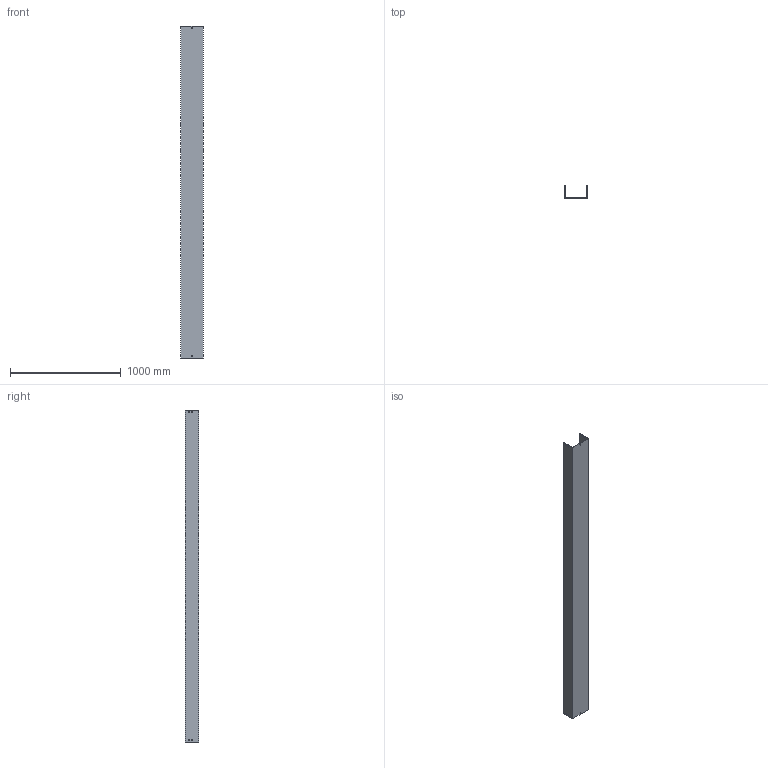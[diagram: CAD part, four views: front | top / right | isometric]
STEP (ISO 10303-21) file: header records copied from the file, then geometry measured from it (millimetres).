
FILE_DESCRIPTION (( 'STEP AP214' ), '1' );
FILE_NAME ('03B3J200.step', '2025-02-21T10:09:03', ( '' ), ( '' ), 'SwSTEP 2.0', 'SolidWorks 2023', '' );
FILE_SCHEMA (( 'AUTOMOTIVE_DESIGN' ));
Length unit declared in the file: millimetre
Products named in the file (1): 03B3J200
Bounding box: 204 x 117.5 x 3000 mm (x, y, z)
Volume: 4533630.5 mm3; surface area: 2615839 mm2
Topology: 1 solids, 1 shells, 50 faces, 144 edges, 96 vertices
Faces by surface type: plane 50
Entity records: 1671 total; most frequent: CARTESIAN_POINT 291, ORIENTED_EDGE 288, DIRECTION 246, LINE 144, EDGE_CURVE 144, VECTOR 144, VERTEX_POINT 96, EDGE_LOOP 70
